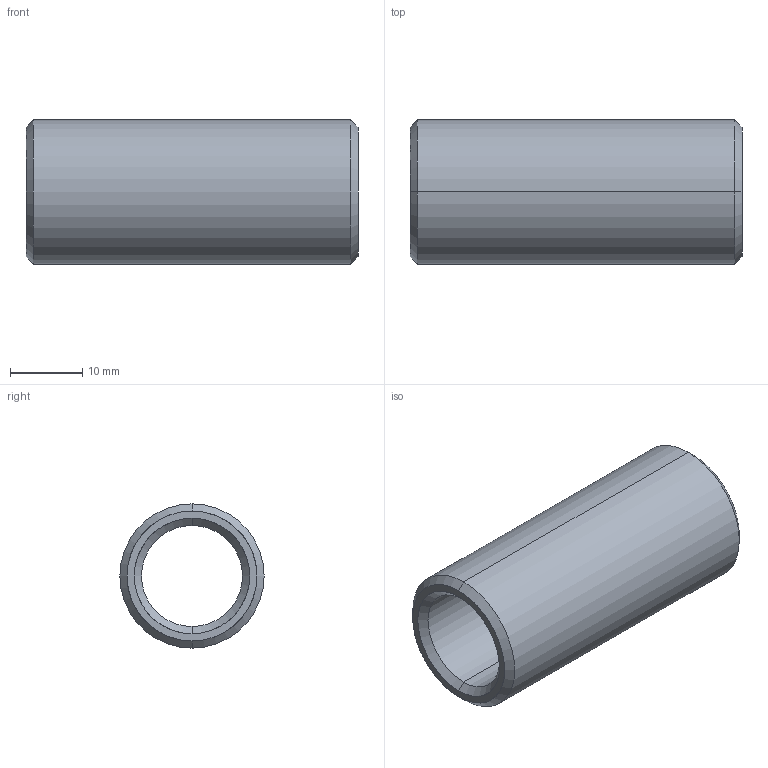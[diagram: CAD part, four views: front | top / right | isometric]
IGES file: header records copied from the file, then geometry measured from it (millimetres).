
Start section: START RECORD GO HERE.
Global section: file name: 352-14X46.igs; native system: DASSAULT SYSTEMES CATIA V5 R20 - www.3ds.com; preprocessor: CATIA Version 5 Release 20 ; author: Utente; organization: NB04-ASUS; date: 20210410.111409; units: millimetre
Bounding box: 46 x 20 x 20 mm (x, y, z)
Surface area: 5114.8 mm2 (no closed solid volume)
Topology: 0 solids, 0 shells, 14 faces, 88 edges, 88 vertices
Faces by surface type: revolution 12, plane 2
